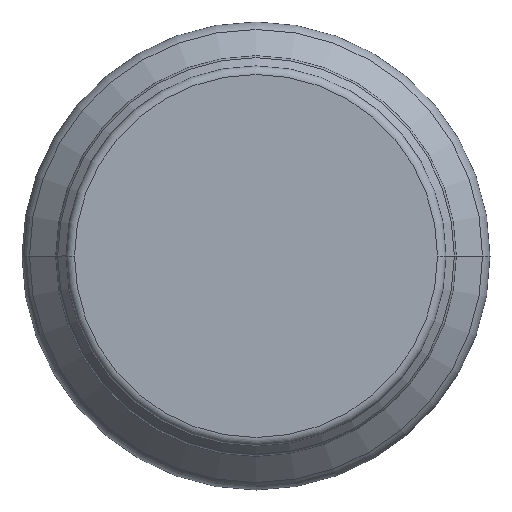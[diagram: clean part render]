
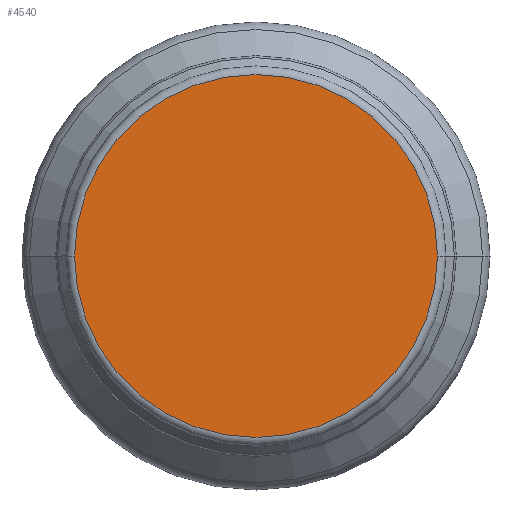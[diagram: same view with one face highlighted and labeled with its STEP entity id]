
A CAD part, left-side view. The second image highlights one B-rep face of the part: STEP entity #4540.
In plain terms, the highlighted planar face has unit normal (-1, 0, 0).
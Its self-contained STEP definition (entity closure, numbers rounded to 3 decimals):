
#4340=CARTESIAN_POINT('',(-11.,43.512,-6.811));
#4350=DIRECTION('',(-1.,0.,0.));
#4360=DIRECTION('',(0.,-1.,0.));
#4370=AXIS2_PLACEMENT_3D('',#4340,#4350,#4360);
#4380=PLANE('',#4370);
#4390=CARTESIAN_POINT('',(-11.,0.,0.));
#4400=DIRECTION('',(-1.,0.,0.));
#4410=DIRECTION('',(0.,1.,0.));
#4420=AXIS2_PLACEMENT_3D('',#4390,#4400,#4410);
#4430=CIRCLE('',#4420,42.45);
#4440=CARTESIAN_POINT('',(-11.,42.45,0.));
#4450=VERTEX_POINT('',#4440);
#4460=CARTESIAN_POINT('',(-11.,-42.45,0.));
#4470=VERTEX_POINT('',#4460);
#4480=EDGE_CURVE('',#4450,#4470,#4430,.T.);
#4490=ORIENTED_EDGE('',*,*,#4480,.T.);
#4500=EDGE_CURVE('',#4470,#4450,#4430,.T.);
#4510=ORIENTED_EDGE('',*,*,#4500,.T.);
#4520=EDGE_LOOP('',(#4510,#4490));
#4530=FACE_OUTER_BOUND('',#4520,.T.);
#4540=ADVANCED_FACE('',(#4530),#4380,.T.);
